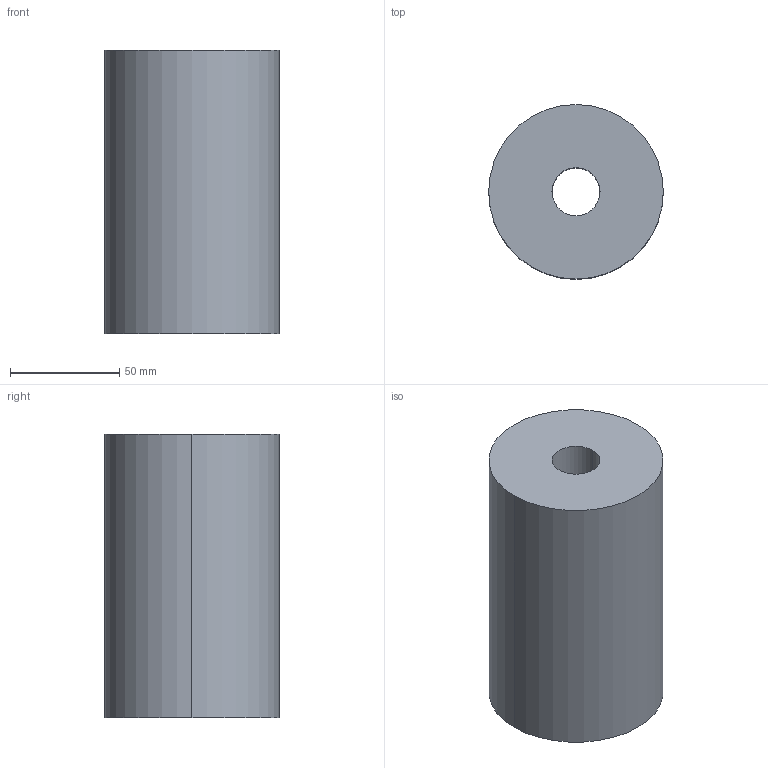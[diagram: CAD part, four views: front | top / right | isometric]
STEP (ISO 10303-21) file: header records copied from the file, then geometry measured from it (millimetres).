
FILE_DESCRIPTION(/* description */ (''),/* implementation_level */ '2;1');
FILE_NAME(/* name */ '3d_pa80-130_04895_r00.stp',/* time_stamp */ '2011-01-10T14:11:57+09:00',/* author */ ('MISUMI'),/* organization */ (''),/* preprocessor_version */ 'ST-DEVELOPER v11',/* originating_system */ 'UGS - NX 5.0',/* authorisation */ '');
FILE_SCHEMA (('CONFIG_CONTROL_DESIGN'));
Length unit declared in the file: millimetre
Products named in the file (1): 3d_pa80-130_04895_r00
Bounding box: 80 x 80 x 130 mm (x, y, z)
Volume: 604034 mm3; surface area: 50950.3 mm2
Topology: 1 solids, 1 shells, 6 faces, 12 edges, 8 vertices
Faces by surface type: cylinder 4, plane 2
Entity records: 254 total; most frequent: DIRECTION 34, CARTESIAN_POINT 27, ORIENTED_EDGE 24, AXIS2_PLACEMENT_3D 15, EDGE_CURVE 12, EDGE_LOOP 8, VERTEX_POINT 8, CIRCLE 8
